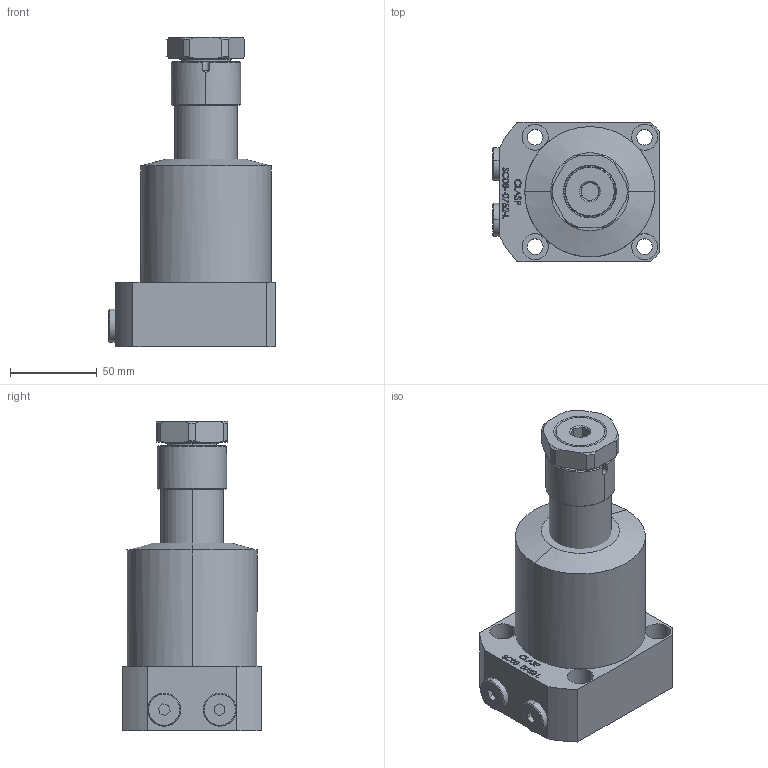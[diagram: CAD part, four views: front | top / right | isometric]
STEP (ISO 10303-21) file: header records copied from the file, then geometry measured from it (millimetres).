
FILE_DESCRIPTION (( 'STEP AP203' ), '1' );
FILE_NAME ('SC08-0752-L.STEP', '2022-07-08T17:20:55', ( '' ), ( '' ), 'SwSTEP 2.0', 'SolidWorks 2017', '' );
FILE_SCHEMA (( 'CONFIG_CONTROL_DESIGN' ));
Length unit declared in the file: millimetre
Products named in the file (6): SC-08-0752-L BODY; SC-08-0752-L Piston; SC-08-0752-L- 05 plug; SC-08-0752-L-04 sleeve; SC-08-0752-L-03-nut; SC08-0752-L
Assembly tree (6 placements, depth 2):
  SC08-0752-L
    SC-08-0752-L BODY
    SC-08-0752-L Piston
    SC-08-0752-L- 05 plug  x2
    SC-08-0752-L-04 sleeve
    SC-08-0752-L-03-nut
Bounding box: 96 x 80 x 178 mm (x, y, z)
Volume: 651064.1 mm3; surface area: 73779.8 mm2
Topology: 6 solids, 6 shells, 373 faces, 936 edges, 611 vertices
Faces by surface type: plane 165, bspline 103, cylinder 62, cone 41, sphere 2
Entity records: 17397 total; most frequent: CARTESIAN_POINT 8749, ORIENTED_EDGE 1804, DIRECTION 1357, EDGE_CURVE 902, VERTEX_POINT 590, LINE 469, VECTOR 469, AXIS2_PLACEMENT_3D 444
